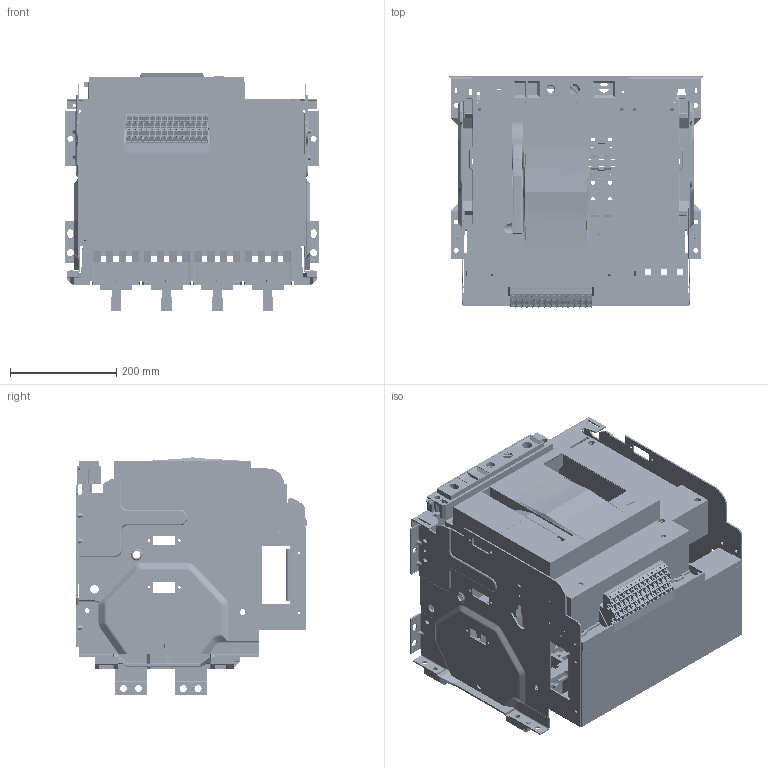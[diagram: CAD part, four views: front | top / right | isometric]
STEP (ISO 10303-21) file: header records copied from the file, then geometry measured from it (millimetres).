
FILE_DESCRIPTION((''),'2;1');
FILE_NAME('NA8G-2500-DO-2500-4P-V_ASM','2020-05-12T16:37:28',('lcc'),(''),'CREO PARAMETRIC BY PTC INC, 2018020','CREO PARAMETRIC BY PTC INC, 2018020','');
FILE_SCHEMA(('CONFIG_CONTROL_DESIGN','SHAPE_APPEARANCE_LAYERS_GROUPS'));
Products named in the file (21): 8-024-490-4P; 8-050-238; 8-050-239; 8-300-089---4; 8ZTD-300-019; 8ZTD-227-004; 8ZTD-235-048; 8ZTD-860-049-2; DW45-2000-DIJIA-4P; 8-060-MIANBAN-11; 8-060-140---4; 8-253-289; 8-253-290; 8-253-309; 8-253-034; 8ZTD-300-279; 8ZTD-064-137; 8ZTD-024-634; 8ZTD-860-699; 8ZTD-580-217-1; NA8G-2500-DO-2500-4P-V_ASM
Assembly tree (40 placements, depth 2):
  NA8G-2500-DO-2500-4P-V_ASM
    8-024-490-4P
    8-050-238
    8-050-239
    8-300-089---4
    8ZTD-300-019
    8ZTD-227-004
    8ZTD-235-048
    8ZTD-860-049-2
    DW45-2000-DIJIA-4P
    8-060-MIANBAN-11
    8-060-140---4
    8-253-289
    8-253-290
    8-253-309
    8-253-034
    8ZTD-300-279
    8ZTD-064-137
    8ZTD-024-634  x14
    8ZTD-860-699
    8ZTD-580-217-1  x8
Bounding box: 476 x 434.04 x 446 mm (x, y, z)
Volume: 6544539.9 mm3; surface area: 3386514.8 mm2
Topology: 39 solids, 48 shells, 9379 faces, 26232 edges, 16869 vertices
Faces by surface type: plane 6495, cylinder 2171, bspline 351, torus 178, cone 109, sphere 75
Entity records: 278881 total; most frequent: CARTESIAN_POINT 55290, ORIENTED_EDGE 38056, DIRECTION 35469, EDGE_CURVE 19059, VECTOR 14159, LINE 14159, VERTEX_POINT 12163, PRESENTATION_STYLE_ASSIGNMENT 10788
